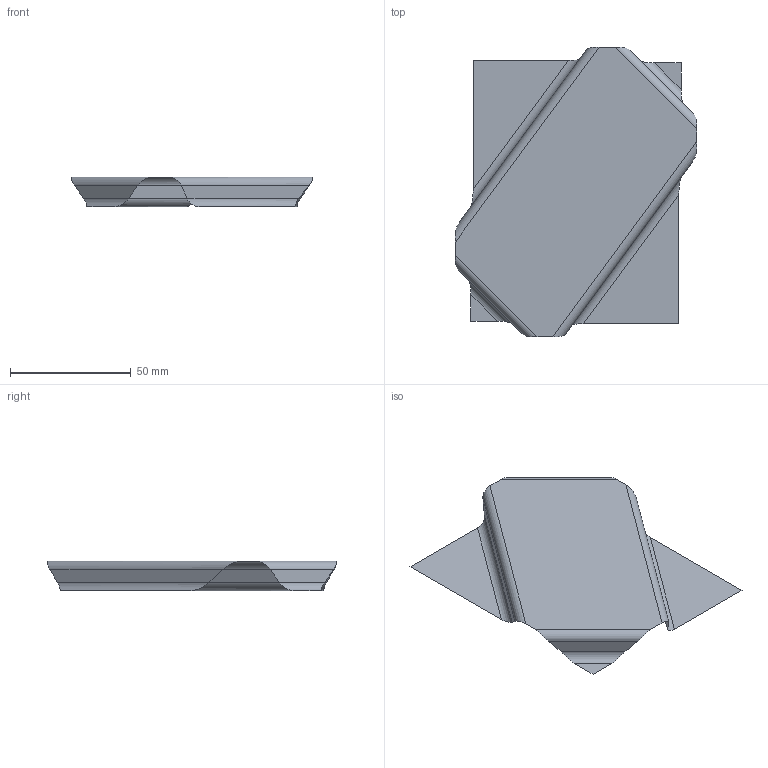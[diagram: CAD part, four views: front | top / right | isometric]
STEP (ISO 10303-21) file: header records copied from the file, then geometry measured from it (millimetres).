
FILE_DESCRIPTION(('CATIA V5 STEP Exchange'),'2;1');
FILE_NAME('C:\_Andres\UNIVERSIDAD\IQS\ASIGNATURAS\DAO\EXF\EXF-15161c\1original\Giménez_Álvarez-Sarandés_Ej03-chapa_v10.stp','2016-03-04T16:55:49+00:00',('none'),('none'),'CATIA Version 5 Release 20 SP 1 (IN-10)','CATIA V5 STEP AP203','none');
FILE_SCHEMA(('CONFIG_CONTROL_DESIGN'));
Length unit declared in the file: millimetre
Products named in the file (1): Giménez_Álvarez-Sarandés_Ej03-chapa_v10
Bounding box: 100.01 x 120.01 x 12.29 mm (x, y, z)
Surface area: 12040.1 mm2 (no closed solid volume)
Topology: 0 solids, 1 shells, 17 faces, 52 edges, 36 vertices
Faces by surface type: plane 9, cylinder 8
Entity records: 624 total; most frequent: CARTESIAN_POINT 201, ORIENTED_EDGE 68, DIRECTION 58, EDGE_CURVE 52, VERTEX_POINT 36, B_SPLINE_CURVE_WITH_KNOTS 30, VECTOR 22, LINE 22
